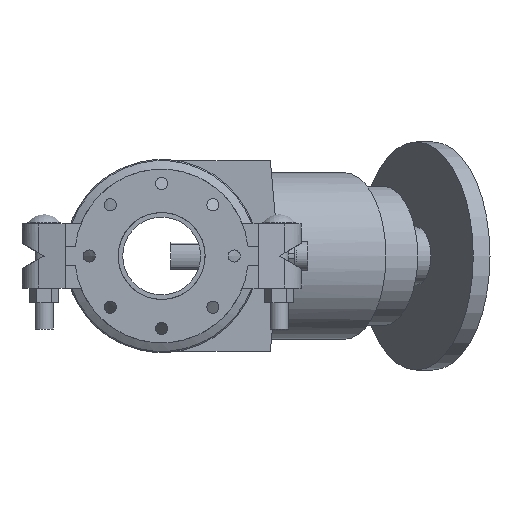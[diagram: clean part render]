
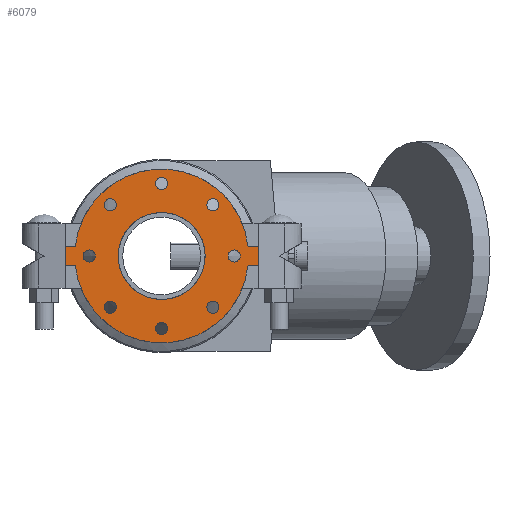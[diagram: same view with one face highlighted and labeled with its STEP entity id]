
A CAD part, front view. The second image highlights one B-rep face of the part: STEP entity #6079.
In plain terms, the highlighted planar face has unit normal (0, -1, 0) as drawn and (0, 0, 1) by its records, which use the part's own axes.
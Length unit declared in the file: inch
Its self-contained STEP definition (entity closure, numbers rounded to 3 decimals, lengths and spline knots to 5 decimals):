
#178=FACE_BOUND('',#792,.T.);
#179=FACE_BOUND('',#793,.T.);
#180=FACE_BOUND('',#794,.T.);
#181=FACE_BOUND('',#795,.T.);
#182=FACE_BOUND('',#796,.T.);
#183=FACE_BOUND('',#797,.T.);
#184=FACE_BOUND('',#798,.T.);
#185=FACE_BOUND('',#799,.T.);
#186=FACE_BOUND('',#800,.T.);
#250=PLANE('',#6633);
#450=FACE_OUTER_BOUND('',#791,.T.);
#791=EDGE_LOOP('',(#3957,#3958,#3959,#3960,#3961,#3962,#3963,#3964));
#792=EDGE_LOOP('',(#3965));
#793=EDGE_LOOP('',(#3966));
#794=EDGE_LOOP('',(#3967));
#795=EDGE_LOOP('',(#3968));
#796=EDGE_LOOP('',(#3969));
#797=EDGE_LOOP('',(#3970));
#798=EDGE_LOOP('',(#3971));
#799=EDGE_LOOP('',(#3972));
#800=EDGE_LOOP('',(#3973,#3974));
#1190=LINE('',#9322,#1635);
#1191=LINE('',#9325,#1636);
#1194=LINE('',#9330,#1639);
#1195=LINE('',#9333,#1640);
#1197=LINE('',#9336,#1642);
#1198=LINE('',#9338,#1643);
#1635=VECTOR('',#7419,0.3937);
#1636=VECTOR('',#7422,0.3937);
#1639=VECTOR('',#7427,0.3937);
#1640=VECTOR('',#7430,0.3937);
#1642=VECTOR('',#7434,0.3937);
#1643=VECTOR('',#7437,0.3937);
#2060=CIRCLE('',#6592,0.3125);
#2062=CIRCLE('',#6595,0.3125);
#2064=CIRCLE('',#6598,0.3125);
#2066=CIRCLE('',#6601,0.3125);
#2068=CIRCLE('',#6604,0.3125);
#2070=CIRCLE('',#6607,0.3125);
#2072=CIRCLE('',#6610,0.3125);
#2074=CIRCLE('',#6613,0.3125);
#2080=CIRCLE('',#6621,4.5);
#2081=CIRCLE('',#6623,2.25);
#2082=CIRCLE('',#6624,2.25);
#2083=CIRCLE('',#6626,4.5);
#2413=VERTEX_POINT('',#9233);
#2415=VERTEX_POINT('',#9239);
#2417=VERTEX_POINT('',#9245);
#2419=VERTEX_POINT('',#9251);
#2421=VERTEX_POINT('',#9257);
#2423=VERTEX_POINT('',#9263);
#2425=VERTEX_POINT('',#9269);
#2427=VERTEX_POINT('',#9275);
#2439=VERTEX_POINT('',#9302);
#2440=VERTEX_POINT('',#9304);
#2441=VERTEX_POINT('',#9308);
#2442=VERTEX_POINT('',#9310);
#2443=VERTEX_POINT('',#9314);
#2444=VERTEX_POINT('',#9316);
#2445=VERTEX_POINT('',#9320);
#2446=VERTEX_POINT('',#9324);
#2447=VERTEX_POINT('',#9328);
#2448=VERTEX_POINT('',#9332);
#3002=EDGE_CURVE('',#2413,#2413,#2060,.T.);
#3005=EDGE_CURVE('',#2415,#2415,#2062,.T.);
#3008=EDGE_CURVE('',#2417,#2417,#2064,.T.);
#3011=EDGE_CURVE('',#2419,#2419,#2066,.T.);
#3014=EDGE_CURVE('',#2421,#2421,#2068,.T.);
#3017=EDGE_CURVE('',#2423,#2423,#2070,.T.);
#3020=EDGE_CURVE('',#2425,#2425,#2072,.T.);
#3023=EDGE_CURVE('',#2427,#2427,#2074,.T.);
#3038=EDGE_CURVE('',#2439,#2440,#2080,.T.);
#3040=EDGE_CURVE('',#2442,#2441,#2081,.T.);
#3041=EDGE_CURVE('',#2441,#2442,#2082,.T.);
#3043=EDGE_CURVE('',#2444,#2443,#2083,.T.);
#3046=EDGE_CURVE('',#2440,#2445,#1190,.T.);
#3047=EDGE_CURVE('',#2446,#2444,#1191,.T.);
#3050=EDGE_CURVE('',#2443,#2447,#1194,.T.);
#3051=EDGE_CURVE('',#2448,#2439,#1195,.T.);
#3053=EDGE_CURVE('',#2447,#2448,#1197,.T.);
#3054=EDGE_CURVE('',#2445,#2446,#1198,.T.);
#3957=ORIENTED_EDGE('',*,*,#3050,.T.);
#3958=ORIENTED_EDGE('',*,*,#3053,.T.);
#3959=ORIENTED_EDGE('',*,*,#3051,.T.);
#3960=ORIENTED_EDGE('',*,*,#3038,.T.);
#3961=ORIENTED_EDGE('',*,*,#3046,.T.);
#3962=ORIENTED_EDGE('',*,*,#3054,.T.);
#3963=ORIENTED_EDGE('',*,*,#3047,.T.);
#3964=ORIENTED_EDGE('',*,*,#3043,.T.);
#3965=ORIENTED_EDGE('',*,*,#3002,.T.);
#3966=ORIENTED_EDGE('',*,*,#3005,.T.);
#3967=ORIENTED_EDGE('',*,*,#3008,.T.);
#3968=ORIENTED_EDGE('',*,*,#3011,.T.);
#3969=ORIENTED_EDGE('',*,*,#3014,.T.);
#3970=ORIENTED_EDGE('',*,*,#3017,.T.);
#3971=ORIENTED_EDGE('',*,*,#3020,.T.);
#3972=ORIENTED_EDGE('',*,*,#3023,.T.);
#3973=ORIENTED_EDGE('',*,*,#3040,.T.);
#3974=ORIENTED_EDGE('',*,*,#3041,.T.);
#6079=ADVANCED_FACE('',(#450,#178,#179,#180,#181,#182,#183,#184,#185,#186),
#250,.T.);
#6592=AXIS2_PLACEMENT_3D('',#9234,#7327,#7328);
#6595=AXIS2_PLACEMENT_3D('',#9240,#7334,#7335);
#6598=AXIS2_PLACEMENT_3D('',#9246,#7341,#7342);
#6601=AXIS2_PLACEMENT_3D('',#9252,#7348,#7349);
#6604=AXIS2_PLACEMENT_3D('',#9258,#7355,#7356);
#6607=AXIS2_PLACEMENT_3D('',#9264,#7362,#7363);
#6610=AXIS2_PLACEMENT_3D('',#9270,#7369,#7370);
#6613=AXIS2_PLACEMENT_3D('',#9276,#7376,#7377);
#6621=AXIS2_PLACEMENT_3D('',#9306,#7401,#7402);
#6623=AXIS2_PLACEMENT_3D('',#9311,#7406,#7407);
#6624=AXIS2_PLACEMENT_3D('',#9312,#7408,#7409);
#6626=AXIS2_PLACEMENT_3D('',#9317,#7413,#7414);
#6633=AXIS2_PLACEMENT_3D('',#9339,#7438,#7439);
#7327=DIRECTION('center_axis',(0.,0.,-1.));
#7328=DIRECTION('ref_axis',(-0.707,0.707,0.));
#7334=DIRECTION('center_axis',(0.,0.,-1.));
#7335=DIRECTION('ref_axis',(0.,1.,0.));
#7341=DIRECTION('center_axis',(0.,0.,-1.));
#7342=DIRECTION('ref_axis',(0.707,0.707,0.));
#7348=DIRECTION('center_axis',(0.,0.,-1.));
#7349=DIRECTION('ref_axis',(1.,0.,0.));
#7355=DIRECTION('center_axis',(0.,0.,-1.));
#7356=DIRECTION('ref_axis',(0.707,-0.707,0.));
#7362=DIRECTION('center_axis',(0.,0.,-1.));
#7363=DIRECTION('ref_axis',(0.,-1.,0.));
#7369=DIRECTION('center_axis',(0.,0.,-1.));
#7370=DIRECTION('ref_axis',(-0.707,-0.707,0.));
#7376=DIRECTION('center_axis',(0.,0.,-1.));
#7377=DIRECTION('ref_axis',(-1.,0.,0.));
#7401=DIRECTION('center_axis',(0.,0.,1.));
#7402=DIRECTION('ref_axis',(-1.,0.,0.));
#7406=DIRECTION('center_axis',(0.,0.,-1.));
#7407=DIRECTION('ref_axis',(-1.,0.,0.));
#7408=DIRECTION('center_axis',(0.,0.,-1.));
#7409=DIRECTION('ref_axis',(-1.,0.,0.));
#7413=DIRECTION('center_axis',(0.,0.,1.));
#7414=DIRECTION('ref_axis',(-1.,0.,0.));
#7419=DIRECTION('',(0.,1.,0.));
#7422=DIRECTION('',(0.,-1.,0.));
#7427=DIRECTION('',(0.,-1.,0.));
#7430=DIRECTION('',(0.,1.,0.));
#7434=DIRECTION('',(1.,0.,0.));
#7437=DIRECTION('',(-1.,0.,0.));
#7438=DIRECTION('center_axis',(0.,0.,1.));
#7439=DIRECTION('ref_axis',(1.,0.,0.));
#9233=CARTESIAN_POINT('',(-2.43068,2.43068,0.5));
#9234=CARTESIAN_POINT('Origin',(-2.65165,2.65165,0.5));
#9239=CARTESIAN_POINT('',(0.,3.4375,0.5));
#9240=CARTESIAN_POINT('Origin',(0.,3.75,0.5));
#9245=CARTESIAN_POINT('',(2.43068,2.43068,0.5));
#9246=CARTESIAN_POINT('Origin',(2.65165,2.65165,0.5));
#9251=CARTESIAN_POINT('',(3.4375,0.,0.5));
#9252=CARTESIAN_POINT('Origin',(3.75,0.,0.5));
#9257=CARTESIAN_POINT('',(2.43068,-2.43068,0.5));
#9258=CARTESIAN_POINT('Origin',(2.65165,-2.65165,0.5));
#9263=CARTESIAN_POINT('',(0.,-3.4375,0.5));
#9264=CARTESIAN_POINT('Origin',(0.,-3.75,0.5));
#9269=CARTESIAN_POINT('',(-2.43068,-2.43068,0.5));
#9270=CARTESIAN_POINT('Origin',(-2.65165,-2.65165,0.5));
#9275=CARTESIAN_POINT('',(-3.4375,0.,0.5));
#9276=CARTESIAN_POINT('Origin',(-3.75,0.,0.5));
#9302=CARTESIAN_POINT('',(0.5,-4.47214,0.5));
#9304=CARTESIAN_POINT('',(0.5,4.47214,0.5));
#9306=CARTESIAN_POINT('Origin',(0.,0.,0.5));
#9308=CARTESIAN_POINT('',(2.25,0.,0.5));
#9310=CARTESIAN_POINT('',(0.5,2.19374,0.5));
#9311=CARTESIAN_POINT('Origin',(0.,0.,0.5));
#9312=CARTESIAN_POINT('Origin',(0.,0.,0.5));
#9314=CARTESIAN_POINT('',(-0.5,-4.47214,0.5));
#9316=CARTESIAN_POINT('',(-0.5,4.47214,0.5));
#9317=CARTESIAN_POINT('Origin',(0.,0.,0.5));
#9320=CARTESIAN_POINT('',(0.5,5.,0.5));
#9322=CARTESIAN_POINT('',(0.5,5.,0.5));
#9324=CARTESIAN_POINT('',(-0.5,5.,0.5));
#9325=CARTESIAN_POINT('',(-0.5,-5.,0.5));
#9328=CARTESIAN_POINT('',(-0.5,-5.,0.5));
#9330=CARTESIAN_POINT('',(-0.5,-5.,0.5));
#9332=CARTESIAN_POINT('',(0.5,-5.,0.5));
#9333=CARTESIAN_POINT('',(0.5,5.,0.5));
#9336=CARTESIAN_POINT('',(0.5,-5.,0.5));
#9338=CARTESIAN_POINT('',(-0.5,5.,0.5));
#9339=CARTESIAN_POINT('Origin',(0.,0.,0.5));
